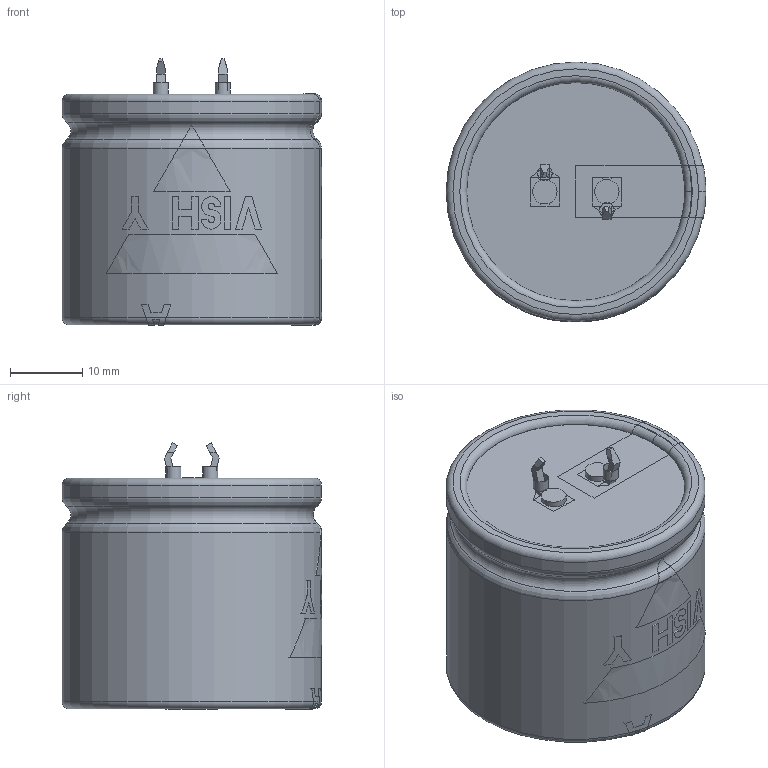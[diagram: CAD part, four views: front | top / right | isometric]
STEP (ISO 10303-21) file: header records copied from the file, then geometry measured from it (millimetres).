
FILE_DESCRIPTION(('FreeCAD Model'),'2;1');
FILE_NAME( 'C:/Users/Gebruiker/Documents/FreeCAD/SnapIn_35x30_2pin_4.0.step', '2020-11-12T20:36:34',('Author'),(''), 'Open CASCADE STEP processor 6.8','FreeCAD','Unknown');
FILE_SCHEMA(('AUTOMOTIVE_DESIGN_CC2 { 1 2 10303 214 -1 1 5 4 }'));
Length unit declared in the file: millimetre
Products named in the file (9): ASSEMBLY; TerminalMin; TerminalPlus; PCBHoles; Disc; BottomInsulation; Can3D; InkMinusBar; InkLogo
Assembly tree (8 placements, depth 2):
  ASSEMBLY
    TerminalMin
    TerminalPlus
    PCBHoles
    Disc
    BottomInsulation
    Can3D
    InkMinusBar
    InkLogo
Bounding box: 36.05 x 36.05 x 36.95 mm (x, y, z)
Volume: 37886.6 mm3; surface area: 15039.6 mm2
Topology: 16 solids, 16 shells, 192 faces, 466 edges, 305 vertices
Faces by surface type: plane 140, cylinder 31, torus 21
Full cylindrical faces by diameter (mm): 2 x2, 2.1 x2, 3.4 x2, 28.8 x2, 30.3 x1, 36 x2
Entity records: 21923 total; most frequent: CARTESIAN_POINT 11487, DIRECTION 1618, ORIENTED_EDGE 932, PCURVE 932, DEFINITIONAL_REPRESENTATION 932, LINE 871, VECTOR 871, EDGE_CURVE 466
